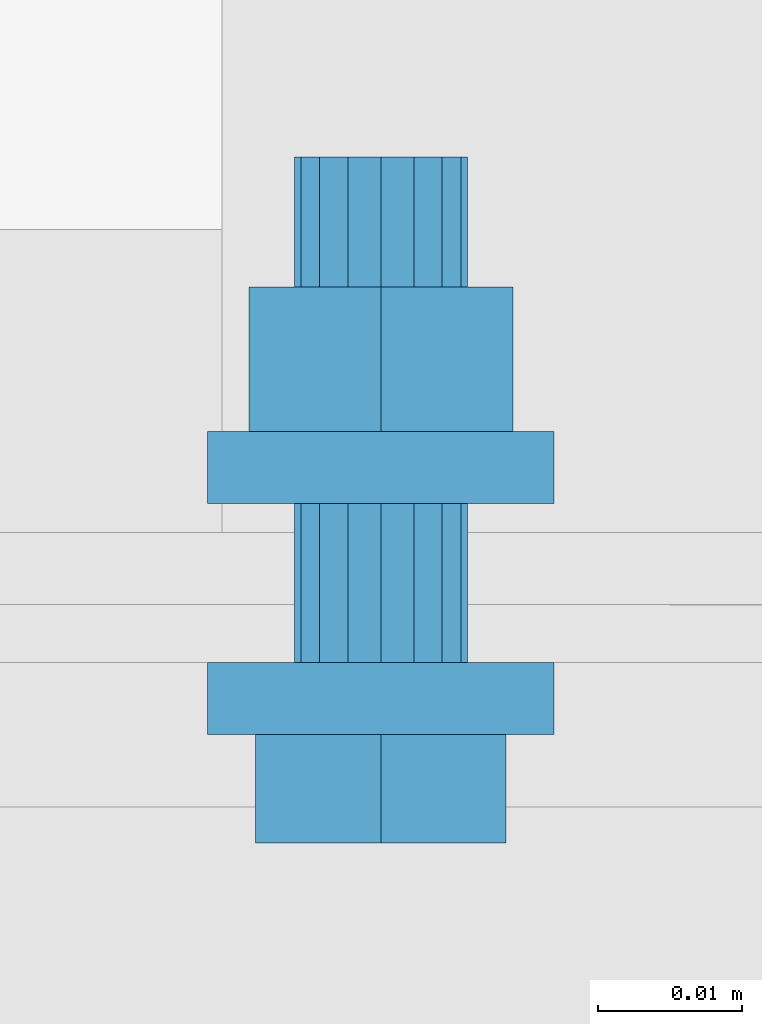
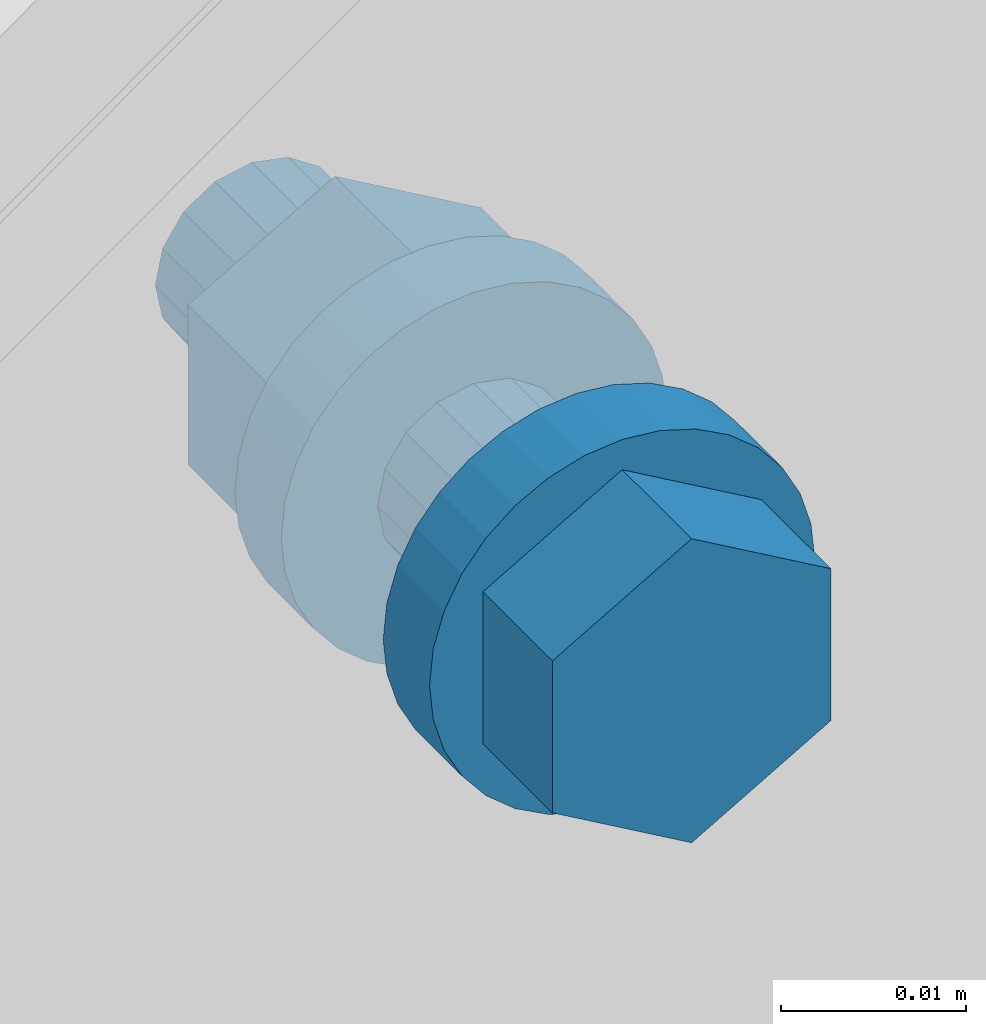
# One storey, part 42 of 116: 1 mechanical fastener.
"""IFC2X3 building model written with IfcOpenShell, lengths in millimetres."""

from ifc_helpers import new_model, entity, si_unit, converted_unit, origin_with_axes, place, context, project, spatial, faceted_brep, element, save


model = new_model("IFC2X3")

# Units and contexts
model_context = context("Model", 3, precision=1e-09, world=origin_with_axes())
ifc_project = project(units=[si_unit("LENGTHUNIT", "METRE", prefix="MILLI"), si_unit("AREAUNIT", "SQUARE_METRE"), si_unit("VOLUMEUNIT", "CUBIC_METRE"), converted_unit("PLANEANGLEUNIT", "DEGREE", entity("IfcPlaneAngleMeasure", 0.01745329), si_unit("PLANEANGLEUNIT", "RADIAN"), dimensions=[0, 0, 0, 0, 0, 0, 0])], contexts=[model_context])

# Site, building, storey
site_placement = place(None, origin_with_axes())
site = spatial("IfcSite", under=ifc_project, at=site_placement, Name="Site", CompositionType="ELEMENT")
building_placement = place(site_placement, origin_with_axes())
building = spatial("IfcBuilding", under=site, at=building_placement, Name="Struktur 1", CompositionType="ELEMENT")
storey_placement = place(building_placement, origin_with_axes())
storey = spatial("IfcBuildingStorey", under=building, at=storey_placement, Name="Default Storey", CompositionType="ELEMENT", Elevation=0.0)

# Mechanical fastener
mechanical_fastener_placement = place(None, origin_with_axes())
element("IfcMechanicalFastener", 1, at=mechanical_fastener_placement, inside=storey, ObjectType="-", NominalDiameter=12.0, NominalLength=40.0, context=model_context, shape_type="Brep", body=[
    faceted_brep([(58605.049134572, 9069.858883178, -223.0), (58605.049134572, 9072.358883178, -223.0), (58605.279711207, 9072.358883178, -225.341083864), (58605.279711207, 9069.858883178, -225.341083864), (58605.962580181, 9072.358883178, -227.592201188), (58605.962580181, 9069.858883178, -227.592201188), (58607.071499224, 9072.358883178, -229.666842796), (58607.071499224, 9069.858883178, -229.666842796), (58608.563853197, 9072.358883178, -231.485281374), (58608.563853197, 9069.858883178, -231.485281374), (58610.382291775, 9072.358883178, -232.977635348), (58610.382291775, 9069.858883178, -232.977635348), (58612.456933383, 9072.358883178, -234.08655439), (58612.456933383, 9069.858883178, -234.08655439), (58614.708050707, 9072.358883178, -234.769423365), (58614.708050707, 9069.858883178, -234.769423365), (58617.049134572, 9072.358883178, -235.0), (58617.049134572, 9069.858883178, -235.0), (58619.390218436, 9072.358883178, -234.769423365), (58619.390218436, 9069.858883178, -234.769423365), (58621.64133576, 9072.358883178, -234.08655439), (58621.64133576, 9069.858883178, -234.08655439), (58623.715977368, 9072.358883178, -232.977635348), (58623.715977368, 9069.858883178, -232.977635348), (58625.534415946, 9072.358883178, -231.485281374), (58625.534415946, 9069.858883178, -231.485281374), (58627.026769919, 9072.358883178, -229.666842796), (58627.026769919, 9069.858883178, -229.666842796), (58628.135688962, 9072.358883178, -227.592201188), (58628.135688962, 9069.858883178, -227.592201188), (58628.818557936, 9072.358883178, -225.341083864), (58628.818557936, 9069.858883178, -225.341083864), (58629.049134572, 9072.358883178, -223.0), (58629.049134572, 9069.858883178, -223.0), (58628.818557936, 9072.358883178, -220.658916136), (58628.818557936, 9069.858883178, -220.658916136), (58628.135688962, 9072.358883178, -218.407798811), (58628.135688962, 9069.858883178, -218.407798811), (58627.026769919, 9072.358883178, -216.333157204), (58627.026769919, 9069.858883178, -216.333157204), (58625.534415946, 9072.358883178, -214.514718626), (58625.534415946, 9069.858883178, -214.514718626), (58623.715977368, 9072.358883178, -213.022364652), (58623.715977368, 9069.858883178, -213.022364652), (58621.64133576, 9072.358883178, -211.91344561), (58621.64133576, 9069.858883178, -211.91344561), (58619.390218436, 9072.358883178, -211.230576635), (58619.390218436, 9069.858883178, -211.230576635), (58617.049134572, 9072.358883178, -211.0), (58617.049134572, 9069.858883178, -211.0), (58614.708050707, 9072.358883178, -211.230576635), (58614.708050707, 9069.858883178, -211.230576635), (58612.456933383, 9072.358883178, -211.91344561), (58612.456933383, 9069.858883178, -211.91344561), (58610.382291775, 9072.358883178, -213.022364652), (58610.382291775, 9069.858883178, -213.022364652), (58608.563853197, 9072.358883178, -214.514718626), (58608.563853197, 9069.858883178, -214.514718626), (58607.071499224, 9072.358883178, -216.333157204), (58607.071499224, 9069.858883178, -216.333157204), (58605.962580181, 9072.358883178, -218.407798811), (58605.962580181, 9069.858883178, -218.407798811), (58605.279711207, 9072.358883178, -220.658916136), (58605.279711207, 9069.858883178, -220.658916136)], [[[0, 1, 2, 3]], [[3, 2, 4, 5]], [[5, 4, 6, 7]], [[7, 6, 8, 9]], [[9, 8, 10, 11]], [[11, 10, 12, 13]], [[13, 12, 14, 15]], [[15, 14, 16, 17]], [[17, 16, 18, 19]], [[19, 18, 20, 21]], [[21, 20, 22, 23]], [[23, 22, 24, 25]], [[25, 24, 26, 27]], [[27, 26, 28, 29]], [[29, 28, 30, 31]], [[31, 30, 32, 33]], [[33, 32, 34, 35]], [[35, 34, 36, 37]], [[37, 36, 38, 39]], [[39, 38, 40, 41]], [[41, 40, 42, 43]], [[43, 42, 44, 45]], [[45, 44, 46, 47]], [[47, 46, 48, 49]], [[49, 48, 50, 51]], [[51, 50, 52, 53]], [[53, 52, 54, 55]], [[55, 54, 56, 57]], [[57, 56, 58, 59]], [[59, 58, 60, 61]], [[61, 60, 62, 63]], [[63, 62, 1, 0]], [[0, 3, 5, 7, 9, 11, 13, 15, 17, 19, 21, 23, 25, 27, 29, 31, 33, 35, 37, 39, 41, 43, 45, 47, 49, 51, 53, 55, 57, 59, 61, 63]], [[1, 62, 60, 58, 56, 54, 52, 50, 48, 46, 44, 42, 40, 38, 36, 34, 32, 30, 28, 26, 24, 22, 20, 18, 16, 14, 12, 10, 8, 6, 4, 2]]]),
    faceted_brep([(58605.049134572, 9067.358883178, -223.0), (58605.049134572, 9069.858883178, -223.0), (58605.279711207, 9069.858883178, -225.341083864), (58605.279711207, 9067.358883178, -225.341083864), (58605.962580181, 9069.858883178, -227.592201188), (58605.962580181, 9067.358883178, -227.592201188), (58607.071499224, 9069.858883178, -229.666842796), (58607.071499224, 9067.358883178, -229.666842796), (58608.563853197, 9069.858883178, -231.485281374), (58608.563853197, 9067.358883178, -231.485281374), (58610.382291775, 9069.858883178, -232.977635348), (58610.382291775, 9067.358883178, -232.977635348), (58612.456933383, 9069.858883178, -234.08655439), (58612.456933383, 9067.358883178, -234.08655439), (58614.708050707, 9069.858883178, -234.769423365), (58614.708050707, 9067.358883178, -234.769423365), (58617.049134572, 9069.858883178, -235.0), (58617.049134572, 9067.358883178, -235.0), (58619.390218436, 9069.858883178, -234.769423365), (58619.390218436, 9067.358883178, -234.769423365), (58621.64133576, 9069.858883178, -234.08655439), (58621.64133576, 9067.358883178, -234.08655439), (58623.715977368, 9069.858883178, -232.977635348), (58623.715977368, 9067.358883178, -232.977635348), (58625.534415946, 9069.858883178, -231.485281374), (58625.534415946, 9067.358883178, -231.485281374), (58627.026769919, 9069.858883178, -229.666842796), (58627.026769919, 9067.358883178, -229.666842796), (58628.135688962, 9069.858883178, -227.592201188), (58628.135688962, 9067.358883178, -227.592201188), (58628.818557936, 9069.858883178, -225.341083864), (58628.818557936, 9067.358883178, -225.341083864), (58629.049134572, 9069.858883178, -223.0), (58629.049134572, 9067.358883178, -223.0), (58628.818557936, 9069.858883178, -220.658916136), (58628.818557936, 9067.358883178, -220.658916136), (58628.135688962, 9069.858883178, -218.407798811), (58628.135688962, 9067.358883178, -218.407798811), (58627.026769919, 9069.858883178, -216.333157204), (58627.026769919, 9067.358883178, -216.333157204), (58625.534415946, 9069.858883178, -214.514718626), (58625.534415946, 9067.358883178, -214.514718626), (58623.715977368, 9069.858883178, -213.022364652), (58623.715977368, 9067.358883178, -213.022364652), (58621.64133576, 9069.858883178, -211.91344561), (58621.64133576, 9067.358883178, -211.91344561), (58619.390218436, 9069.858883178, -211.230576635), (58619.390218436, 9067.358883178, -211.230576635), (58617.049134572, 9069.858883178, -211.0), (58617.049134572, 9067.358883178, -211.0), (58614.708050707, 9069.858883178, -211.230576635), (58614.708050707, 9067.358883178, -211.230576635), (58612.456933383, 9069.858883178, -211.91344561), (58612.456933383, 9067.358883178, -211.91344561), (58610.382291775, 9069.858883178, -213.022364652), (58610.382291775, 9067.358883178, -213.022364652), (58608.563853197, 9069.858883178, -214.514718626), (58608.563853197, 9067.358883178, -214.514718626), (58607.071499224, 9069.858883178, -216.333157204), (58607.071499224, 9067.358883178, -216.333157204), (58605.962580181, 9069.858883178, -218.407798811), (58605.962580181, 9067.358883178, -218.407798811), (58605.279711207, 9069.858883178, -220.658916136), (58605.279711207, 9067.358883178, -220.658916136)], [[[0, 1, 2, 3]], [[3, 2, 4, 5]], [[5, 4, 6, 7]], [[7, 6, 8, 9]], [[9, 8, 10, 11]], [[11, 10, 12, 13]], [[13, 12, 14, 15]], [[15, 14, 16, 17]], [[17, 16, 18, 19]], [[19, 18, 20, 21]], [[21, 20, 22, 23]], [[23, 22, 24, 25]], [[25, 24, 26, 27]], [[27, 26, 28, 29]], [[29, 28, 30, 31]], [[31, 30, 32, 33]], [[33, 32, 34, 35]], [[35, 34, 36, 37]], [[37, 36, 38, 39]], [[39, 38, 40, 41]], [[41, 40, 42, 43]], [[43, 42, 44, 45]], [[45, 44, 46, 47]], [[47, 46, 48, 49]], [[49, 48, 50, 51]], [[51, 50, 52, 53]], [[53, 52, 54, 55]], [[55, 54, 56, 57]], [[57, 56, 58, 59]], [[59, 58, 60, 61]], [[61, 60, 62, 63]], [[63, 62, 1, 0]], [[0, 3, 5, 7, 9, 11, 13, 15, 17, 19, 21, 23, 25, 27, 29, 31, 33, 35, 37, 39, 41, 43, 45, 47, 49, 51, 53, 55, 57, 59, 61, 63]], [[1, 62, 60, 58, 56, 54, 52, 50, 48, 46, 44, 42, 40, 38, 36, 34, 32, 30, 28, 26, 24, 22, 20, 18, 16, 14, 12, 10, 8, 6, 4, 2]]]),
    faceted_brep([(58625.722378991, 9067.358883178, -228.0075), (58625.722378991, 9059.858883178, -228.0075), (58617.049134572, 9059.858883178, -233.015), (58617.049134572, 9067.358883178, -233.015), (58608.375890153, 9059.858883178, -228.0075), (58608.375890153, 9067.358883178, -228.0075), (58608.375890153, 9059.858883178, -217.9925), (58608.375890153, 9067.358883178, -217.9925), (58617.049134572, 9059.858883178, -212.985), (58617.049134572, 9067.358883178, -212.985), (58625.722378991, 9059.858883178, -217.9925), (58625.722378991, 9067.358883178, -217.9925)], [[[0, 1, 2, 3]], [[3, 2, 4, 5]], [[5, 4, 6, 7]], [[7, 6, 8, 9]], [[9, 8, 10, 11]], [[11, 10, 1, 0]], [[4, 2, 1, 10, 8, 6]], [[0, 3, 5, 7, 9, 11]]]),
    faceted_brep([(58611.049134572, 9072.358883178, -223.0), (58611.049134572, 9083.358883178, -223.0), (58611.505857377, 9083.358883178, -225.296100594), (58611.505857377, 9072.358883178, -225.296100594), (58612.806493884, 9083.358883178, -227.242640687), (58612.806493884, 9072.358883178, -227.242640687), (58614.753033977, 9083.358883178, -228.543277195), (58614.753033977, 9072.358883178, -228.543277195), (58617.049134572, 9083.358883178, -229.0), (58617.049134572, 9072.358883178, -229.0), (58619.345235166, 9083.358883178, -228.543277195), (58619.345235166, 9072.358883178, -228.543277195), (58621.291775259, 9083.358883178, -227.242640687), (58621.291775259, 9072.358883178, -227.242640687), (58622.592411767, 9083.358883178, -225.296100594), (58622.592411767, 9072.358883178, -225.296100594), (58623.049134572, 9083.358883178, -223.0), (58623.049134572, 9072.358883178, -223.0), (58622.592411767, 9083.358883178, -220.703899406), (58622.592411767, 9072.358883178, -220.703899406), (58621.291775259, 9083.358883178, -218.757359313), (58621.291775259, 9072.358883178, -218.757359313), (58619.345235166, 9083.358883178, -217.456722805), (58619.345235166, 9072.358883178, -217.456722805), (58617.049134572, 9083.358883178, -217.0), (58617.049134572, 9072.358883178, -217.0), (58614.753033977, 9083.358883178, -217.456722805), (58614.753033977, 9072.358883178, -217.456722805), (58612.806493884, 9083.358883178, -218.757359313), (58612.806493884, 9072.358883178, -218.757359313), (58611.505857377, 9083.358883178, -220.703899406), (58611.505857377, 9072.358883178, -220.703899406)], [[[0, 1, 2, 3]], [[3, 2, 4, 5]], [[5, 4, 6, 7]], [[7, 6, 8, 9]], [[9, 8, 10, 11]], [[11, 10, 12, 13]], [[13, 12, 14, 15]], [[15, 14, 16, 17]], [[17, 16, 18, 19]], [[19, 18, 20, 21]], [[21, 20, 22, 23]], [[23, 22, 24, 25]], [[25, 24, 26, 27]], [[27, 26, 28, 29]], [[29, 28, 30, 31]], [[31, 30, 1, 0]], [[0, 3, 5, 7, 9, 11, 13, 15, 17, 19, 21, 23, 25, 27, 29, 31]], [[1, 30, 28, 26, 24, 22, 20, 18, 16, 14, 12, 10, 8, 6, 4, 2]]]),
    faceted_brep([(58605.049134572, 9083.358883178, -223.0), (58605.049134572, 9085.858883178, -223.0), (58605.279711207, 9085.858883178, -225.341083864), (58605.279711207, 9083.358883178, -225.341083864), (58605.962580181, 9085.858883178, -227.592201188), (58605.962580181, 9083.358883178, -227.592201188), (58607.071499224, 9085.858883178, -229.666842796), (58607.071499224, 9083.358883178, -229.666842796), (58608.563853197, 9085.858883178, -231.485281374), (58608.563853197, 9083.358883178, -231.485281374), (58610.382291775, 9085.858883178, -232.977635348), (58610.382291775, 9083.358883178, -232.977635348), (58612.456933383, 9085.858883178, -234.08655439), (58612.456933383, 9083.358883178, -234.08655439), (58614.708050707, 9085.858883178, -234.769423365), (58614.708050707, 9083.358883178, -234.769423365), (58617.049134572, 9085.858883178, -235.0), (58617.049134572, 9083.358883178, -235.0), (58619.390218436, 9085.858883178, -234.769423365), (58619.390218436, 9083.358883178, -234.769423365), (58621.64133576, 9085.858883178, -234.08655439), (58621.64133576, 9083.358883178, -234.08655439), (58623.715977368, 9085.858883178, -232.977635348), (58623.715977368, 9083.358883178, -232.977635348), (58625.534415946, 9085.858883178, -231.485281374), (58625.534415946, 9083.358883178, -231.485281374), (58627.026769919, 9085.858883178, -229.666842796), (58627.026769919, 9083.358883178, -229.666842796), (58628.135688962, 9085.858883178, -227.592201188), (58628.135688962, 9083.358883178, -227.592201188), (58628.818557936, 9085.858883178, -225.341083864), (58628.818557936, 9083.358883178, -225.341083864), (58629.049134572, 9085.858883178, -223.0), (58629.049134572, 9083.358883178, -223.0), (58628.818557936, 9085.858883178, -220.658916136), (58628.818557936, 9083.358883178, -220.658916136), (58628.135688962, 9085.858883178, -218.407798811), (58628.135688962, 9083.358883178, -218.407798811), (58627.026769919, 9085.858883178, -216.333157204), (58627.026769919, 9083.358883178, -216.333157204), (58625.534415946, 9085.858883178, -214.514718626), (58625.534415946, 9083.358883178, -214.514718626), (58623.715977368, 9085.858883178, -213.022364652), (58623.715977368, 9083.358883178, -213.022364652), (58621.64133576, 9085.858883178, -211.91344561), (58621.64133576, 9083.358883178, -211.91344561), (58619.390218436, 9085.858883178, -211.230576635), (58619.390218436, 9083.358883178, -211.230576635), (58617.049134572, 9085.858883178, -211.0), (58617.049134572, 9083.358883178, -211.0), (58614.708050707, 9085.858883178, -211.230576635), (58614.708050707, 9083.358883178, -211.230576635), (58612.456933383, 9085.858883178, -211.91344561), (58612.456933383, 9083.358883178, -211.91344561), (58610.382291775, 9085.858883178, -213.022364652), (58610.382291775, 9083.358883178, -213.022364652), (58608.563853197, 9085.858883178, -214.514718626), (58608.563853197, 9083.358883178, -214.514718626), (58607.071499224, 9085.858883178, -216.333157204), (58607.071499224, 9083.358883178, -216.333157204), (58605.962580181, 9085.858883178, -218.407798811), (58605.962580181, 9083.358883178, -218.407798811), (58605.279711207, 9085.858883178, -220.658916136), (58605.279711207, 9083.358883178, -220.658916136)], [[[0, 1, 2, 3]], [[3, 2, 4, 5]], [[5, 4, 6, 7]], [[7, 6, 8, 9]], [[9, 8, 10, 11]], [[11, 10, 12, 13]], [[13, 12, 14, 15]], [[15, 14, 16, 17]], [[17, 16, 18, 19]], [[19, 18, 20, 21]], [[21, 20, 22, 23]], [[23, 22, 24, 25]], [[25, 24, 26, 27]], [[27, 26, 28, 29]], [[29, 28, 30, 31]], [[31, 30, 32, 33]], [[33, 32, 34, 35]], [[35, 34, 36, 37]], [[37, 36, 38, 39]], [[39, 38, 40, 41]], [[41, 40, 42, 43]], [[43, 42, 44, 45]], [[45, 44, 46, 47]], [[47, 46, 48, 49]], [[49, 48, 50, 51]], [[51, 50, 52, 53]], [[53, 52, 54, 55]], [[55, 54, 56, 57]], [[57, 56, 58, 59]], [[59, 58, 60, 61]], [[61, 60, 62, 63]], [[63, 62, 1, 0]], [[0, 3, 5, 7, 9, 11, 13, 15, 17, 19, 21, 23, 25, 27, 29, 31, 33, 35, 37, 39, 41, 43, 45, 47, 49, 51, 53, 55, 57, 59, 61, 63]], [[1, 62, 60, 58, 56, 54, 52, 50, 48, 46, 44, 42, 40, 38, 36, 34, 32, 30, 28, 26, 24, 22, 20, 18, 16, 14, 12, 10, 8, 6, 4, 2]]]),
    faceted_brep([(58605.049134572, 9085.858883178, -223.0), (58605.049134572, 9088.358883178, -223.0), (58605.279711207, 9088.358883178, -225.341083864), (58605.279711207, 9085.858883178, -225.341083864), (58605.962580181, 9088.358883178, -227.592201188), (58605.962580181, 9085.858883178, -227.592201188), (58607.071499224, 9088.358883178, -229.666842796), (58607.071499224, 9085.858883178, -229.666842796), (58608.563853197, 9088.358883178, -231.485281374), (58608.563853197, 9085.858883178, -231.485281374), (58610.382291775, 9088.358883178, -232.977635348), (58610.382291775, 9085.858883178, -232.977635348), (58612.456933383, 9088.358883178, -234.08655439), (58612.456933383, 9085.858883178, -234.08655439), (58614.708050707, 9088.358883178, -234.769423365), (58614.708050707, 9085.858883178, -234.769423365), (58617.049134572, 9088.358883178, -235.0), (58617.049134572, 9085.858883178, -235.0), (58619.390218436, 9088.358883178, -234.769423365), (58619.390218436, 9085.858883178, -234.769423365), (58621.64133576, 9088.358883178, -234.08655439), (58621.64133576, 9085.858883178, -234.08655439), (58623.715977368, 9088.358883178, -232.977635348), (58623.715977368, 9085.858883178, -232.977635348), (58625.534415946, 9088.358883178, -231.485281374), (58625.534415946, 9085.858883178, -231.485281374), (58627.026769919, 9088.358883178, -229.666842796), (58627.026769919, 9085.858883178, -229.666842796), (58628.135688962, 9088.358883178, -227.592201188), (58628.135688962, 9085.858883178, -227.592201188), (58628.818557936, 9088.358883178, -225.341083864), (58628.818557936, 9085.858883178, -225.341083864), (58629.049134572, 9088.358883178, -223.0), (58629.049134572, 9085.858883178, -223.0), (58628.818557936, 9088.358883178, -220.658916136), (58628.818557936, 9085.858883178, -220.658916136), (58628.135688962, 9088.358883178, -218.407798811), (58628.135688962, 9085.858883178, -218.407798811), (58627.026769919, 9088.358883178, -216.333157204), (58627.026769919, 9085.858883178, -216.333157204), (58625.534415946, 9088.358883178, -214.514718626), (58625.534415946, 9085.858883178, -214.514718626), (58623.715977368, 9088.358883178, -213.022364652), (58623.715977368, 9085.858883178, -213.022364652), (58621.64133576, 9088.358883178, -211.91344561), (58621.64133576, 9085.858883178, -211.91344561), (58619.390218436, 9088.358883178, -211.230576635), (58619.390218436, 9085.858883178, -211.230576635), (58617.049134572, 9088.358883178, -211.0), (58617.049134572, 9085.858883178, -211.0), (58614.708050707, 9088.358883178, -211.230576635), (58614.708050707, 9085.858883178, -211.230576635), (58612.456933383, 9088.358883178, -211.91344561), (58612.456933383, 9085.858883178, -211.91344561), (58610.382291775, 9088.358883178, -213.022364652), (58610.382291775, 9085.858883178, -213.022364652), (58608.563853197, 9088.358883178, -214.514718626), (58608.563853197, 9085.858883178, -214.514718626), (58607.071499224, 9088.358883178, -216.333157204), (58607.071499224, 9085.858883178, -216.333157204), (58605.962580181, 9088.358883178, -218.407798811), (58605.962580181, 9085.858883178, -218.407798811), (58605.279711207, 9088.358883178, -220.658916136), (58605.279711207, 9085.858883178, -220.658916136)], [[[0, 1, 2, 3]], [[3, 2, 4, 5]], [[5, 4, 6, 7]], [[7, 6, 8, 9]], [[9, 8, 10, 11]], [[11, 10, 12, 13]], [[13, 12, 14, 15]], [[15, 14, 16, 17]], [[17, 16, 18, 19]], [[19, 18, 20, 21]], [[21, 20, 22, 23]], [[23, 22, 24, 25]], [[25, 24, 26, 27]], [[27, 26, 28, 29]], [[29, 28, 30, 31]], [[31, 30, 32, 33]], [[33, 32, 34, 35]], [[35, 34, 36, 37]], [[37, 36, 38, 39]], [[39, 38, 40, 41]], [[41, 40, 42, 43]], [[43, 42, 44, 45]], [[45, 44, 46, 47]], [[47, 46, 48, 49]], [[49, 48, 50, 51]], [[51, 50, 52, 53]], [[53, 52, 54, 55]], [[55, 54, 56, 57]], [[57, 56, 58, 59]], [[59, 58, 60, 61]], [[61, 60, 62, 63]], [[63, 62, 1, 0]], [[0, 3, 5, 7, 9, 11, 13, 15, 17, 19, 21, 23, 25, 27, 29, 31, 33, 35, 37, 39, 41, 43, 45, 47, 49, 51, 53, 55, 57, 59, 61, 63]], [[1, 62, 60, 58, 56, 54, 52, 50, 48, 46, 44, 42, 40, 38, 36, 34, 32, 30, 28, 26, 24, 22, 20, 18, 16, 14, 12, 10, 8, 6, 4, 2]]]),
    faceted_brep([(58626.185702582, 9098.358883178, -228.275), (58626.185702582, 9088.358883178, -228.275), (58617.049134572, 9088.358883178, -233.55), (58617.049134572, 9098.358883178, -233.55), (58607.912566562, 9088.358883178, -228.275), (58607.912566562, 9098.358883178, -228.275), (58607.912566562, 9088.358883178, -217.725), (58607.912566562, 9098.358883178, -217.725), (58617.049134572, 9088.358883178, -212.45), (58617.049134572, 9098.358883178, -212.45), (58626.185702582, 9088.358883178, -217.725), (58626.185702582, 9098.358883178, -217.725)], [[[0, 1, 2, 3]], [[3, 2, 4, 5]], [[5, 4, 6, 7]], [[7, 6, 8, 9]], [[9, 8, 10, 11]], [[11, 10, 1, 0]], [[4, 2, 1, 10, 8, 6]], [[0, 3, 5, 7, 9, 11]]]),
    faceted_brep([(58611.049134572, 9098.358883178, -223.0), (58611.049134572, 9107.358883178, -223.0), (58611.505857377, 9107.358883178, -225.296100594), (58611.505857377, 9098.358883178, -225.296100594), (58612.806493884, 9107.358883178, -227.242640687), (58612.806493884, 9098.358883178, -227.242640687), (58614.753033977, 9107.358883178, -228.543277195), (58614.753033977, 9098.358883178, -228.543277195), (58617.049134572, 9107.358883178, -229.0), (58617.049134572, 9098.358883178, -229.0), (58619.345235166, 9107.358883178, -228.543277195), (58619.345235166, 9098.358883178, -228.543277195), (58621.291775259, 9107.358883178, -227.242640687), (58621.291775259, 9098.358883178, -227.242640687), (58622.592411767, 9107.358883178, -225.296100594), (58622.592411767, 9098.358883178, -225.296100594), (58623.049134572, 9107.358883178, -223.0), (58623.049134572, 9098.358883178, -223.0), (58622.592411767, 9107.358883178, -220.703899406), (58622.592411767, 9098.358883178, -220.703899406), (58621.291775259, 9107.358883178, -218.757359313), (58621.291775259, 9098.358883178, -218.757359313), (58619.345235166, 9107.358883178, -217.456722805), (58619.345235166, 9098.358883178, -217.456722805), (58617.049134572, 9107.358883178, -217.0), (58617.049134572, 9098.358883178, -217.0), (58614.753033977, 9107.358883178, -217.456722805), (58614.753033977, 9098.358883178, -217.456722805), (58612.806493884, 9107.358883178, -218.757359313), (58612.806493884, 9098.358883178, -218.757359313), (58611.505857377, 9107.358883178, -220.703899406), (58611.505857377, 9098.358883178, -220.703899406)], [[[0, 1, 2, 3]], [[3, 2, 4, 5]], [[5, 4, 6, 7]], [[7, 6, 8, 9]], [[9, 8, 10, 11]], [[11, 10, 12, 13]], [[13, 12, 14, 15]], [[15, 14, 16, 17]], [[17, 16, 18, 19]], [[19, 18, 20, 21]], [[21, 20, 22, 23]], [[23, 22, 24, 25]], [[25, 24, 26, 27]], [[27, 26, 28, 29]], [[29, 28, 30, 31]], [[31, 30, 1, 0]], [[0, 3, 5, 7, 9, 11, 13, 15, 17, 19, 21, 23, 25, 27, 29, 31]], [[1, 30, 28, 26, 24, 22, 20, 18, 16, 14, 12, 10, 8, 6, 4, 2]]]),
])

save(model, "model.ifc")
